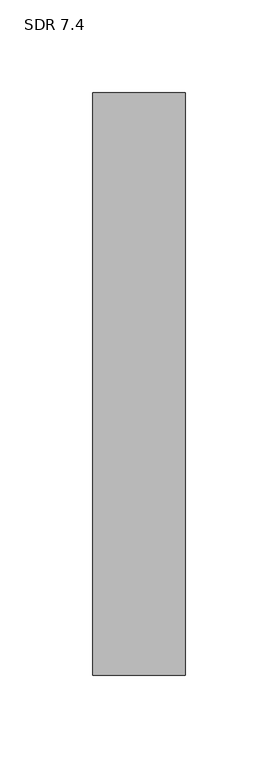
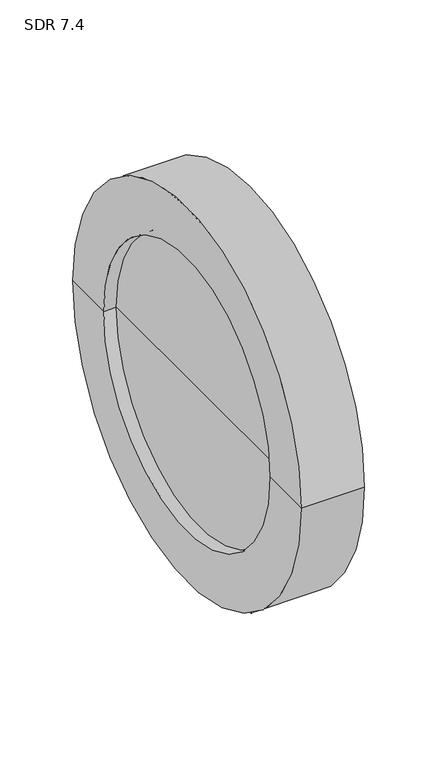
"""IFC4 building model written with IfcOpenShell, lengths in millimetres: pipe fitting geometry, Aquatherm - End Cap Butt-Weld : SDR 7.4."""

from ifc_helpers import new_model, si_unit, frame, origin, place, context, project, spatial, polyline, circle_curve, source, transform, mapped, element, save
from ifc_brep_helpers import plane_surface, cylinder_surface, revolved_surface, advanced_brep


def sdr_7_4_17b18192(model_context):
    return source(origin(), model_context, "Body", "AdvancedBrep", [
        advanced_brep(
        [(50.038, -157.48, 0.0), (50.038, 157.48, 0.0), (50.038, 0.0, 0.0), (10.16, 0.0, 0.0), (10.16, 114.935, 0.0), (10.16, -114.935, 0.0), (0.0, 114.935, 0.0), (0.0, -114.935, 0.0), (0.0, 157.48, 0.0), (0.0, -157.48, 0.0)],
        [
            (0, 1, circle_curve(frame((50.038, 0.0, 0.0), z_axis=(1.0, 0.0, 0.0), x_axis=(0.0, 1.0, 0.0)), 157.48)),
            (1, 2),
            (2, 0),
            (1, 0, circle_curve(frame((50.038, 0.0, 0.0), z_axis=(1.0, 0.0, 0.0), x_axis=(0.0, 1.0, 0.0)), 157.48)),
            (3, 4),
            (4, 5, circle_curve(frame((10.16, 0.0, 0.0), z_axis=(-1.0, 0.0, 0.0), x_axis=(0.0, 1.0, 0.0)), 114.935)),
            (5, 3),
            (5, 4, circle_curve(frame((10.16, 0.0, 0.0), z_axis=(-1.0, 0.0, 0.0), x_axis=(0.0, 1.0, 0.0)), 114.935)),
            (4, 6),
            (6, 7, circle_curve(frame((0.0, 0.0, 0.0), z_axis=(-1.0, 0.0, 0.0), x_axis=(0.0, 1.0, 0.0)), 114.935)),
            (7, 5),
            (7, 6, circle_curve(frame((0.0, 0.0, 0.0), z_axis=(-1.0, 0.0, 0.0), x_axis=(0.0, 1.0, 0.0)), 114.935)),
            (6, 8),
            (8, 9, circle_curve(frame((0.0, 0.0, 0.0), z_axis=(-1.0, 0.0, 0.0), x_axis=(0.0, 1.0, 0.0)), 157.48)),
            (9, 7),
            (9, 8, circle_curve(frame((0.0, 0.0, 0.0), z_axis=(-1.0, 0.0, 0.0), x_axis=(0.0, 1.0, 0.0)), 157.48)),
            (8, 1),
            (0, 9),
        ],
        [
            plane_surface(frame((50.038, 0.0, 0.0), z_axis=(1.0, 0.0, 0.0), x_axis=(0.0, 1.0, 0.0))),
            plane_surface(frame((10.16, 0.0, 0.0), z_axis=(-1.0, 0.0, 0.0), x_axis=(0.0, 1.0, 0.0))),
            revolved_surface(polyline([(0.0, 114.935, 0.0), (10.160000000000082, 114.935, 0.0)]), (-1393.952, 0.0, 0.0), (-1.0, 0.0, 0.0)),
            plane_surface(frame((0.0, 0.0, 0.0), z_axis=(-1.0, 0.0, 0.0), x_axis=(0.0, 1.0, 0.0))),
            cylinder_surface(frame((-1393.952, 0.0, 0.0), z_axis=(-1.0, 0.0, 0.0), x_axis=(0.0, 1.0, 0.0)), 157.48),
        ],
        [
            (0, [[1, 2, 3]]),
            (0, [[4, -3, -2]]),
            (1, [[5, 6, 7]]),
            (1, [[-7, 8, -5]]),
            (2, [[-6, 9, 10, 11]]),
            (2, [[-8, -11, 12, -9]]),
            (3, [[-10, 13, 14, 15]]),
            (3, [[-12, -15, 16, -13]]),
            (4, [[-14, 17, -1, 18]]),
            (4, [[-16, -18, -4, -17]]),
        ],
    ),
    ])


if __name__ == "__main__":
    model = new_model("IFC4")
    model_context = context("Model", 3, world=origin())
    ifc_project = project(units=[si_unit("LENGTHUNIT", "METRE", prefix="MILLI")], contexts=[model_context])
    site = spatial("IfcSite", under=ifc_project)
    building = spatial("IfcBuilding", under=site)
    placement = place(None, origin())
    sdr_7_4_shape = sdr_7_4_17b18192(model_context)
    element("IfcPipeFitting", 1, ObjectType="Aquatherm - End Cap Butt-Weld : SDR 7.4", at=placement, inside=building, context=model_context, shape_type="MappedRepresentation", body=[
        mapped(sdr_7_4_shape, transform((0.0, 0.0, 0.0), x_axis=(1.0, 0.0, 0.0), y_axis=(0.0, 1.0, 0.0), z_axis=(0.0, 0.0, 1.0))),
    ])
    save(model, "model.ifc")
